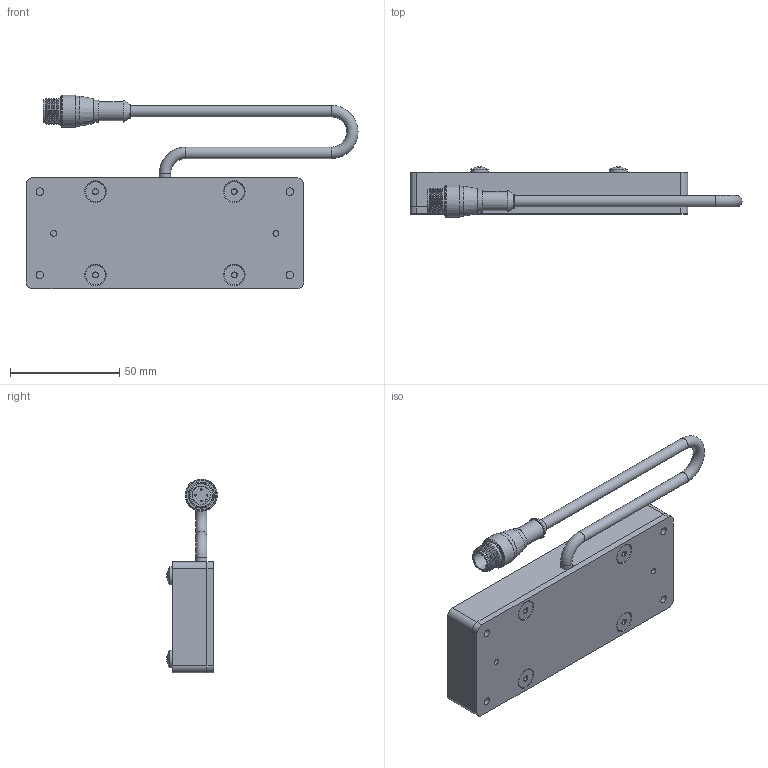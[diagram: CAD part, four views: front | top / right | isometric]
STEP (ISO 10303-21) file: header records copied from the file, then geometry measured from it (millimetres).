
FILE_DESCRIPTION (( 'STEP AP214' ), '1' );
FILE_NAME ('SBL14-XXX.STEP', '2026-04-15T13:49:42', ( '' ), ( '' ), 'SwSTEP 2.0', 'SolidWorks 2025', '' );
FILE_SCHEMA (( 'AUTOMOTIVE_DESIGN' ));
Length unit declared in the file: inch
Products named in the file (10): BackPlate BLYYXX_0104; WD-SBLYYXX_1x4 with holes; Hex Standoff X.X x 8-32_0.375; MC Pigtail 24; SC Pigtail Complete 18_4pin; SBL14-XXX; 8-32 x 0.375 FHCS (92210A192)_92210A192; 8-32 x .375 Nylon Screw_.375" 94611A192; Housing SBL14; M12 Connector 4,5 and 8 pin
Assembly tree (18 placements, depth 3):
  SBL14-XXX
    Housing SBL14
    BackPlate BLYYXX_0104
    WD-SBLYYXX_1x4 with holes
    Hex Standoff X.X x 8-32_0.375  x4
    8-32 x 0.375 FHCS (92210A192)_92210A192  x4
    8-32 x .375 Nylon Screw_.375" 94611A192  x4
    SC Pigtail Complete 18_4pin
      MC Pigtail 24
      M12 Connector 4,5 and 8 pin
Bounding box: 151.83 x 23.12 x 88.59 mm (x, y, z)
Volume: 93237.6 mm3; surface area: 55217.9 mm2
Topology: 17 solids, 17 shells, 496 faces, 1214 edges, 770 vertices
Faces by surface type: plane 181, bspline 108, cylinder 99, cone 83, torus 17, sphere 8
Full cylindrical faces by diameter (mm): 0.762 x4, 2.705 x2, 3.454 x8, 4.496 x12, 5.207 x3, 6.604 x4, 6.858 x4, 8.128 x4, 8.382 x1, 8.636 x1, 9.119 x4, 10.16 x1, 10.541 x1, 11.938 x1, 13.716 x2, 14.732 x1
Entity records: 11766 total; most frequent: CARTESIAN_POINT 4960, DIRECTION 1104, ORIENTED_EDGE 974, EDGE_CURVE 487, AXIS2_PLACEMENT_3D 458, EDGE_LOOP 402, VERTEX_POINT 359, FACE_OUTER_BOUND 306
